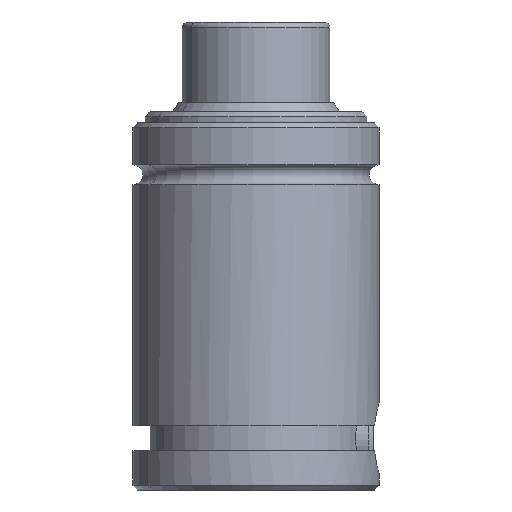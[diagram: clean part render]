
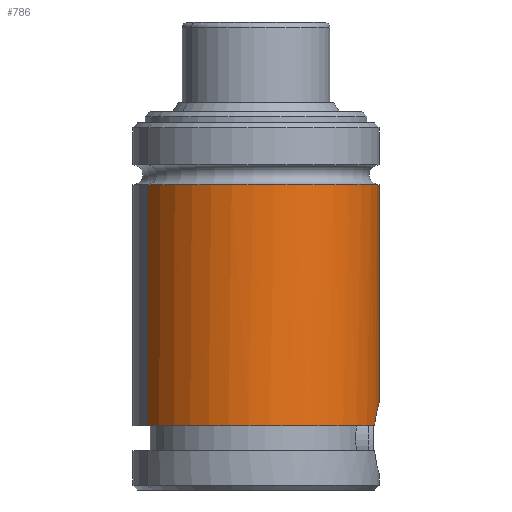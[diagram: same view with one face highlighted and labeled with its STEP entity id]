
A CAD part, front view. The second image highlights one B-rep face of the part: STEP entity #786.
In plain terms, the highlighted cylindrical face has radius 25 mm (diameter 50 mm), a partial arc.
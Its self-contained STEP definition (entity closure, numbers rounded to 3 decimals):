
#93=CARTESIAN_POINT('Axis2P3D Location',(0.,0.,37.25)) ;
#622=CARTESIAN_POINT('Vertex',(-21.94,-11.986,62.)) ;
#629=CARTESIAN_POINT('Vertex',(21.94,11.986,62.)) ;
#644=CARTESIAN_POINT('Axis2P3D Location',(0.,0.,62.)) ;
#656=CARTESIAN_POINT('Line Origine',(-21.94,-11.986,37.25)) ;
#660=CARTESIAN_POINT('Vertex',(-21.94,-11.986,13.)) ;
#663=CARTESIAN_POINT('Line Origine',(21.94,11.986,37.25)) ;
#667=CARTESIAN_POINT('Vertex',(21.94,11.986,13.)) ;
#741=CARTESIAN_POINT('Axis2P3D Location',(0.,0.,13.)) ;
#745=CARTESIAN_POINT('Vertex',(24.056,6.805,13.)) ;
#748=CARTESIAN_POINT('Axis2P3D Location',(0.,0.,13.)) ;
#752=CARTESIAN_POINT('Vertex',(24.056,-6.805,13.)) ;
#756=CARTESIAN_POINT('Control Point',(24.056,-6.805,13.)) ;
#757=CARTESIAN_POINT('Control Point',(24.091,-6.682,13.336)) ;
#758=CARTESIAN_POINT('Control Point',(24.132,-6.534,13.663)) ;
#759=CARTESIAN_POINT('Control Point',(24.177,-6.362,13.976)) ;
#760=CARTESIAN_POINT('Vertex',(24.177,-6.362,13.976)) ;
#764=CARTESIAN_POINT('Control Point',(24.056,6.805,13.)) ;
#765=CARTESIAN_POINT('Control Point',(24.185,6.35,14.241)) ;
#766=CARTESIAN_POINT('Control Point',(24.381,5.613,15.371)) ;
#767=CARTESIAN_POINT('Control Point',(24.606,4.637,16.309)) ;
#768=CARTESIAN_POINT('Control Point',(24.959,2.406,17.634)) ;
#769=CARTESIAN_POINT('Control Point',(25.047,-0.185,17.905)) ;
#770=CARTESIAN_POINT('Control Point',(25.003,-1.44,17.765)) ;
#771=CARTESIAN_POINT('Control Point',(24.809,-3.381,17.112)) ;
#772=CARTESIAN_POINT('Control Point',(24.514,-4.964,15.872)) ;
#773=CARTESIAN_POINT('Control Point',(24.392,-5.516,15.303)) ;
#774=CARTESIAN_POINT('Control Point',(24.276,-5.986,14.666)) ;
#775=CARTESIAN_POINT('Control Point',(24.177,-6.362,13.976)) ;
#94=DIRECTION('Axis2P3D Direction',(0.,0.,1.)) ;
#95=DIRECTION('Axis2P3D XDirection',(0.878,0.479,0.)) ;
#645=DIRECTION('Axis2P3D Direction',(0.,0.,1.)) ;
#657=DIRECTION('Vector Direction',(0.,0.,1.)) ;
#664=DIRECTION('Vector Direction',(0.,0.,1.)) ;
#742=DIRECTION('Axis2P3D Direction',(0.,0.,1.)) ;
#749=DIRECTION('Axis2P3D Direction',(0.,0.,1.)) ;
#96=AXIS2_PLACEMENT_3D('Cylinder Axis2P3D',#93,#94,#95) ;
#646=AXIS2_PLACEMENT_3D('Circle Axis2P3D',#644,#645,$) ;
#743=AXIS2_PLACEMENT_3D('Circle Axis2P3D',#741,#742,$) ;
#750=AXIS2_PLACEMENT_3D('Circle Axis2P3D',#748,#749,$) ;
#778=ORIENTED_EDGE('',*,*,#747,.T.) ;
#779=ORIENTED_EDGE('',*,*,#669,.T.) ;
#780=ORIENTED_EDGE('',*,*,#648,.F.) ;
#781=ORIENTED_EDGE('',*,*,#662,.F.) ;
#782=ORIENTED_EDGE('',*,*,#754,.T.) ;
#783=ORIENTED_EDGE('',*,*,#762,.T.) ;
#784=ORIENTED_EDGE('',*,*,#776,.F.) ;
#658=VECTOR('Line Direction',#657,1.) ;
#665=VECTOR('Line Direction',#664,1.) ;
#786=ADVANCED_FACE('',(#785),#97,.T.) ;
#755=B_SPLINE_CURVE_WITH_KNOTS('',3,(#756,#757,#758,#759),.UNSPECIFIED.,.F.,.U.,(4,4),(0.,1.527),.UNSPECIFIED.) ;
#763=B_SPLINE_CURVE_WITH_KNOTS('',5,(#764,#765,#766,#767,#768,#769,#770,#771,#772,#773,#774,#775),.UNSPECIFIED.,.F.,.U.,(6,3,3,6),(0.,9.39,18.025,23.627),.UNSPECIFIED.) ;
#647=CIRCLE('generated circle',#646,25.) ;
#744=CIRCLE('generated circle',#743,25.) ;
#751=CIRCLE('generated circle',#750,25.) ;
#97=CYLINDRICAL_SURFACE('generated cylinder',#96,25.) ;
#648=EDGE_CURVE('',#623,#630,#647,.T.) ;
#662=EDGE_CURVE('',#661,#623,#659,.T.) ;
#669=EDGE_CURVE('',#668,#630,#666,.T.) ;
#747=EDGE_CURVE('',#746,#668,#744,.T.) ;
#754=EDGE_CURVE('',#661,#753,#751,.T.) ;
#762=EDGE_CURVE('',#753,#761,#755,.T.) ;
#776=EDGE_CURVE('',#746,#761,#763,.T.) ;
#777=EDGE_LOOP('',(#778,#779,#780,#781,#782,#783,#784)) ;
#785=FACE_OUTER_BOUND('',#777,.T.) ;
#659=LINE('Line',#656,#658) ;
#666=LINE('Line',#663,#665) ;
#623=VERTEX_POINT('',#622) ;
#630=VERTEX_POINT('',#629) ;
#661=VERTEX_POINT('',#660) ;
#668=VERTEX_POINT('',#667) ;
#746=VERTEX_POINT('',#745) ;
#753=VERTEX_POINT('',#752) ;
#761=VERTEX_POINT('',#760) ;
